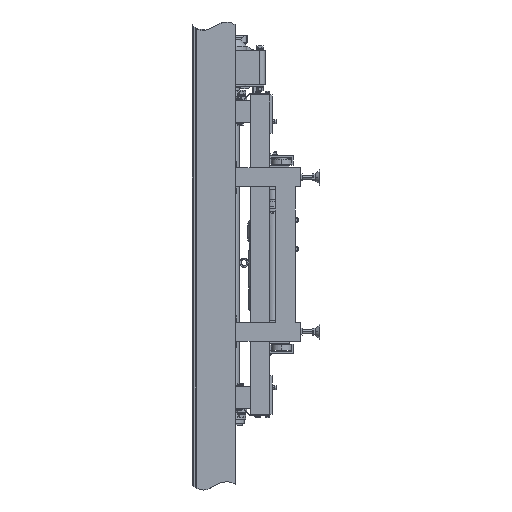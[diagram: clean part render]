
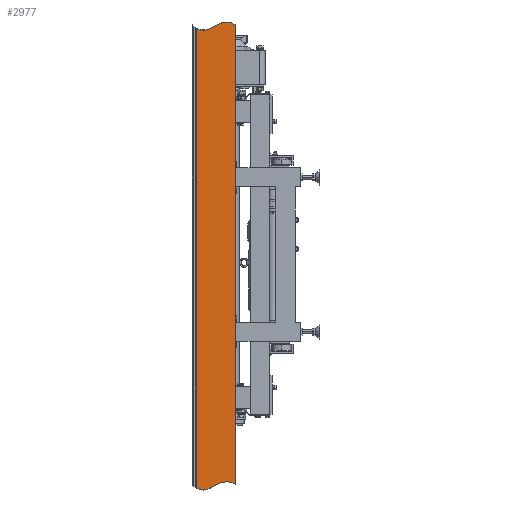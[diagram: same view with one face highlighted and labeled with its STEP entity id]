
A CAD part, left-side view. The second image highlights one B-rep face of the part: STEP entity #2977.
In plain terms, the highlighted planar face has unit normal (-1, 0, 0).
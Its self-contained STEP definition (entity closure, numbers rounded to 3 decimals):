
#2977=ADVANCED_FACE('',(#18004),#18003,.F.);
#18003=PLANE('',#64031);
#18004=FACE_OUTER_BOUND('',#64032,.T.);
#64028=CARTESIAN_POINT('',(-497.5,-178.925,-932.16));
#64029=DIRECTION('',(1.,0.,0.));
#64030=DIRECTION('',(0.,1.,0.));
#64031=AXIS2_PLACEMENT_3D('',#64028,#64029,#64030);
#64032=EDGE_LOOP('',(#90803,#90804,#90805,#90806));
#90803=ORIENTED_EDGE('',*,*,#113156,.T.);
#90804=ORIENTED_EDGE('',*,*,#113155,.F.);
#90805=ORIENTED_EDGE('',*,*,#113152,.T.);
#90806=ORIENTED_EDGE('',*,*,#113157,.T.);
#113152=EDGE_CURVE('',#141050,#141043,#141051,.T.);
#113155=EDGE_CURVE('',#141050,#141063,#141070,.T.);
#113156=EDGE_CURVE('',#141076,#141063,#141077,.T.);
#113157=EDGE_CURVE('',#141043,#141076,#141083,.T.);
#141043=VERTEX_POINT('',#217804);
#141050=VERTEX_POINT('',#217808);
#141051=(BOUNDED_CURVE() B_SPLINE_CURVE(3,(#217809,#217810,#217811,#217812,#217813,#217814,#217815,#217816,#217817,#217818,#217819,#217820,#217821,#217822,#217823),.UNSPECIFIED.,.F.,.F.) B_SPLINE_CURVE_WITH_KNOTS((4,1,1,1,1,1,1,1,1,1,1,1,4),(0.,0.07,0.12,0.176,0.257,0.352,0.433,0.531,0.612,0.679,0.786,0.875,1.),.UNSPECIFIED.) CURVE() GEOMETRIC_REPRESENTATION_ITEM() RATIONAL_B_SPLINE_CURVE((1.,1.,1.,1.,1.,1.,1.,1.,1.,1.,1.,1.,1.,1.,1.)) REPRESENTATION_ITEM('') );
#141063=VERTEX_POINT('',#217827);
#141070=LINE('',#217831,#217832);
#141076=VERTEX_POINT('',#217834);
#141077=(BOUNDED_CURVE() B_SPLINE_CURVE(3,(#217835,#217836,#217837,#217838,#217839,#217840,#217841,#217842,#217843,#217844,#217845,#217846,#217847,#217848,#217849),.UNSPECIFIED.,.F.,.F.) B_SPLINE_CURVE_WITH_KNOTS((4,1,1,1,1,1,1,1,1,1,1,1,4),(0.,0.125,0.214,0.321,0.388,0.469,0.567,0.648,0.743,0.824,0.88,0.93,1.),.UNSPECIFIED.) CURVE() GEOMETRIC_REPRESENTATION_ITEM() RATIONAL_B_SPLINE_CURVE((1.,1.,1.,1.,1.,1.,1.,1.,1.,1.,1.,1.,1.,1.,1.)) REPRESENTATION_ITEM('') );
#141083=LINE('',#217850,#217851);
#217804=CARTESIAN_POINT('',(-497.5,-18.925,885.029));
#217808=CARTESIAN_POINT('',(-497.5,-168.925,900.));
#217809=CARTESIAN_POINT('',(-497.5,-168.925,900.));
#217810=CARTESIAN_POINT('',(-497.5,-165.809,902.053));
#217811=CARTESIAN_POINT('',(-497.5,-160.228,905.236));
#217812=CARTESIAN_POINT('',(-497.5,-151.485,908.658));
#217813=CARTESIAN_POINT('',(-497.5,-141.728,910.887));
#217814=CARTESIAN_POINT('',(-497.5,-129.222,911.019));
#217815=CARTESIAN_POINT('',(-497.5,-115.805,907.694));
#217816=CARTESIAN_POINT('',(-497.5,-102.382,901.944));
#217817=CARTESIAN_POINT('',(-497.5,-90.181,895.411));
#217818=CARTESIAN_POINT('',(-497.5,-78.698,889.146));
#217819=CARTESIAN_POINT('',(-497.5,-66.473,883.235));
#217820=CARTESIAN_POINT('',(-497.5,-53.125,878.654));
#217821=CARTESIAN_POINT('',(-497.5,-35.748,877.84));
#217822=CARTESIAN_POINT('',(-497.5,-24.713,881.757));
#217823=CARTESIAN_POINT('',(-497.5,-18.925,885.029));
#217827=CARTESIAN_POINT('',(-497.5,-168.925,-900.));
#217831=CARTESIAN_POINT('',(-497.5,-168.925,900.));
#217832=VECTOR('',#217833,1800.);
#217833=DIRECTION('',(0.,0.,-1.));
#217834=CARTESIAN_POINT('',(-497.5,-18.925,-914.971));
#217835=CARTESIAN_POINT('',(-497.5,-18.925,-914.971));
#217836=CARTESIAN_POINT('',(-497.5,-24.713,-918.243));
#217837=CARTESIAN_POINT('',(-497.5,-35.748,-922.16));
#217838=CARTESIAN_POINT('',(-497.5,-53.125,-921.346));
#217839=CARTESIAN_POINT('',(-497.5,-66.473,-916.765));
#217840=CARTESIAN_POINT('',(-497.5,-78.698,-910.854));
#217841=CARTESIAN_POINT('',(-497.5,-90.181,-904.589));
#217842=CARTESIAN_POINT('',(-497.5,-102.382,-898.056));
#217843=CARTESIAN_POINT('',(-497.5,-115.805,-892.306));
#217844=CARTESIAN_POINT('',(-497.5,-129.222,-888.981));
#217845=CARTESIAN_POINT('',(-497.5,-141.728,-889.113));
#217846=CARTESIAN_POINT('',(-497.5,-151.485,-891.342));
#217847=CARTESIAN_POINT('',(-497.5,-160.228,-894.764));
#217848=CARTESIAN_POINT('',(-497.5,-165.809,-897.947));
#217849=CARTESIAN_POINT('',(-497.5,-168.925,-900.));
#217850=CARTESIAN_POINT('',(-497.5,-18.925,885.029));
#217851=VECTOR('',#217852,1800.);
#217852=DIRECTION('',(0.,0.,-1.));
